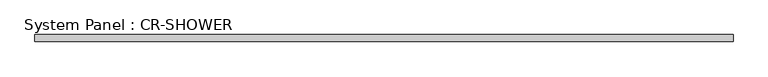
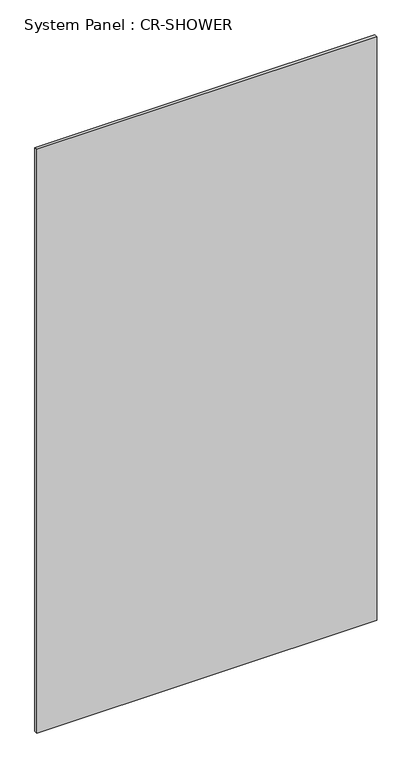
"""IFC4 building model written with IfcOpenShell, lengths in millimetres: plate geometry, System Panel : CR-SHOWER."""

from ifc_helpers import new_model, si_unit, origin, origin_with_axes, place, context, project, spatial, polyline, outline, extrude, source, transform, mapped, element, save


def system_panel_cr_shower_c062e60c(model_context):
    return source(origin(), model_context, "Body", "SweptSolid", [
        extrude(outline(polyline([(620.0000715, -0.05), (-620.0000715, -0.05), (-620.0000715, 12.45), (620.0000715, 12.45), (620.0000715, -0.05)])), origin_with_axes(), (0.0, 0.0, 1.0), 2250.0),
    ])


if __name__ == "__main__":
    model = new_model("IFC4")
    model_context = context("Model", 3, world=origin())
    ifc_project = project(units=[si_unit("LENGTHUNIT", "METRE", prefix="MILLI")], contexts=[model_context])
    site = spatial("IfcSite", under=ifc_project)
    building = spatial("IfcBuilding", under=site)
    placement = place(None, origin())
    system_panel_cr_shower_shape = system_panel_cr_shower_c062e60c(model_context)
    element("IfcPlate", 1, ObjectType="System Panel : CR-SHOWER", at=placement, inside=building, context=model_context, shape_type="MappedRepresentation", body=[
        mapped(system_panel_cr_shower_shape, transform((0.0, 0.0, 0.0), x_axis=(1.0, 0.0, 0.0), y_axis=(0.0, 1.0, 0.0), z_axis=(0.0, 0.0, 1.0))),
    ])
    save(model, "model.ifc")
